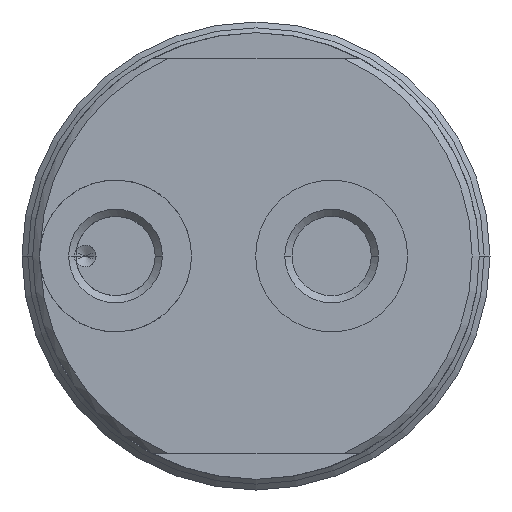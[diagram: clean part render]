
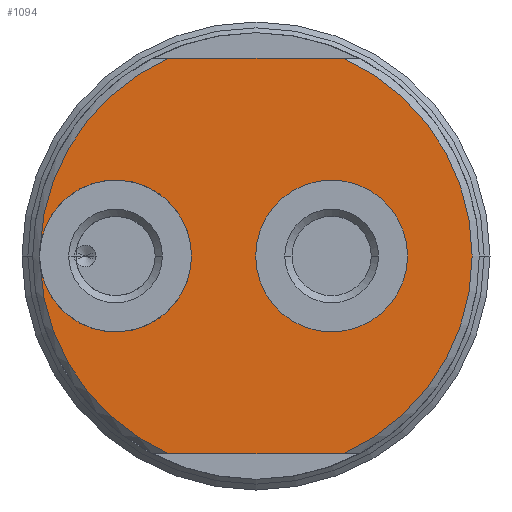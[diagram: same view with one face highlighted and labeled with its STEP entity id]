
A CAD part, left-side view. The second image highlights one B-rep face of the part: STEP entity #1094.
In plain terms, the highlighted planar face has unit normal (-1, 0, 0).
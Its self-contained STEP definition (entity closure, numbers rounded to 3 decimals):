
#213=CARTESIAN_POINT('',(-58.5,-10.5,0.));
#214=DIRECTION('',(-1.,0.,0.));
#215=DIRECTION('',(0.,1.,0.));
#216=AXIS2_PLACEMENT_3D('',#213,#214,#215);
#218=CARTESIAN_POINT('',(-58.5,-10.5,0.));
#219=DIRECTION('',(-1.,0.,0.));
#220=DIRECTION('',(0.,-1.,0.));
#221=AXIS2_PLACEMENT_3D('',#218,#219,#220);
#223=DIRECTION('',(0.,1.,0.));
#224=VECTOR('',#223,24.207);
#225=CARTESIAN_POINT('',(-58.5,-12.104,-27.45));
#226=LINE('',#225,#224);
#227=CARTESIAN_POINT('',(-58.5,0.,0.));
#228=DIRECTION('',(-1.,0.,0.));
#229=DIRECTION('',(0.,0.999,-0.038));
#230=AXIS2_PLACEMENT_3D('',#227,#228,#229);
#232=CARTESIAN_POINT('',(-58.5,19.5,0.));
#233=DIRECTION('',(-1.,0.,0.));
#234=DIRECTION('',(0.,0.994,-0.108));
#235=AXIS2_PLACEMENT_3D('',#232,#233,#234);
#237=CARTESIAN_POINT('',(-58.5,19.5,0.));
#238=DIRECTION('',(-1.,0.,0.));
#239=DIRECTION('',(0.,-1.,0.));
#240=AXIS2_PLACEMENT_3D('',#237,#238,#239);
#242=CARTESIAN_POINT('',(-58.5,0.,0.));
#243=DIRECTION('',(-1.,0.,0.));
#244=DIRECTION('',(0.,0.403,0.915));
#245=AXIS2_PLACEMENT_3D('',#242,#243,#244);
#247=DIRECTION('',(0.,-1.,0.));
#248=VECTOR('',#247,24.207);
#249=CARTESIAN_POINT('',(-58.5,12.104,27.45));
#250=LINE('',#249,#248);
#264=CARTESIAN_POINT('',(-58.5,0.,0.));
#265=DIRECTION('',(-1.,0.,0.));
#266=DIRECTION('',(0.,-0.403,-0.915));
#267=AXIS2_PLACEMENT_3D('',#264,#265,#266);
#634=CARTESIAN_POINT('',(-58.5,8.959,0.));
#635=VERTEX_POINT('',#634);
#652=CARTESIAN_POINT('',(-58.5,0.041,0.));
#653=CARTESIAN_POINT('',(-58.5,-21.041,0.));
#654=VERTEX_POINT('',#652);
#655=VERTEX_POINT('',#653);
#735=CARTESIAN_POINT('',(-58.5,-12.104,-27.45));
#736=CARTESIAN_POINT('',(-58.5,12.104,-27.45));
#737=VERTEX_POINT('',#735);
#738=VERTEX_POINT('',#736);
#739=CARTESIAN_POINT('',(-58.5,12.104,27.45));
#740=CARTESIAN_POINT('',(-58.5,-12.104,27.45));
#741=VERTEX_POINT('',#739);
#742=VERTEX_POINT('',#740);
#751=CARTESIAN_POINT('',(-58.5,29.978,1.14));
#752=VERTEX_POINT('',#751);
#753=CARTESIAN_POINT('',(-58.5,29.978,-1.14));
#754=VERTEX_POINT('',#753);
#1068=CARTESIAN_POINT('',(-58.5,0.,0.));
#1069=DIRECTION('',(1.,0.,0.));
#1070=DIRECTION('',(0.,-1.,0.));
#1071=AXIS2_PLACEMENT_3D('',#1068,#1069,#1070);
#1072=PLANE('',#1071);
#1074=ORIENTED_EDGE('',*,*,#1073,.T.);
#1076=ORIENTED_EDGE('',*,*,#1075,.F.);
#1078=ORIENTED_EDGE('',*,*,#1077,.T.);
#1080=ORIENTED_EDGE('',*,*,#1079,.T.);
#1082=ORIENTED_EDGE('',*,*,#1081,.F.);
#1084=ORIENTED_EDGE('',*,*,#1083,.T.);
#1086=ORIENTED_EDGE('',*,*,#1085,.F.);
#1087=EDGE_LOOP('',(#1074,#1076,#1078,#1080,#1082,#1084,#1086));
#1088=FACE_OUTER_BOUND('',#1087,.F.);
#1089=ORIENTED_EDGE('',*,*,#1058,.T.);
#1091=ORIENTED_EDGE('',*,*,#1090,.T.);
#1092=EDGE_LOOP('',(#1089,#1091));
#1093=FACE_BOUND('',#1092,.F.);
#1094=ADVANCED_FACE('',(#1088,#1093),#1072,.F.);
#217=CIRCLE('',#216,10.541);
#222=CIRCLE('',#221,10.541);
#231=CIRCLE('',#230,30.);
#236=CIRCLE('',#235,10.541);
#241=CIRCLE('',#240,10.541);
#246=CIRCLE('',#245,30.);
#268=CIRCLE('',#267,30.);
#1058=EDGE_CURVE('',#654,#655,#217,.T.);
#1073=EDGE_CURVE('',#737,#738,#226,.T.);
#1075=EDGE_CURVE('',#754,#738,#231,.T.);
#1077=EDGE_CURVE('',#754,#635,#236,.T.);
#1079=EDGE_CURVE('',#635,#752,#241,.T.);
#1081=EDGE_CURVE('',#741,#752,#246,.T.);
#1083=EDGE_CURVE('',#741,#742,#250,.T.);
#1085=EDGE_CURVE('',#737,#742,#268,.T.);
#1090=EDGE_CURVE('',#655,#654,#222,.T.);
